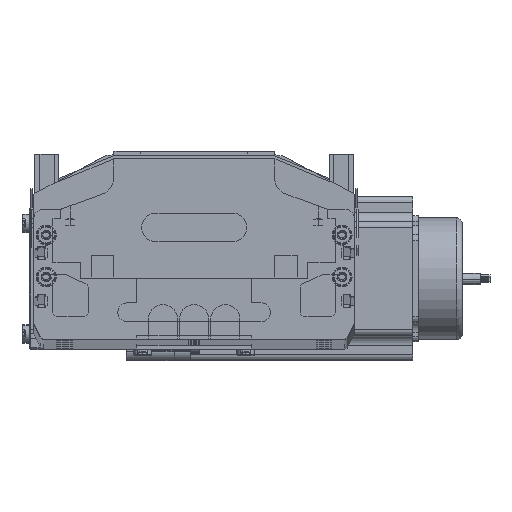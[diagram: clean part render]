
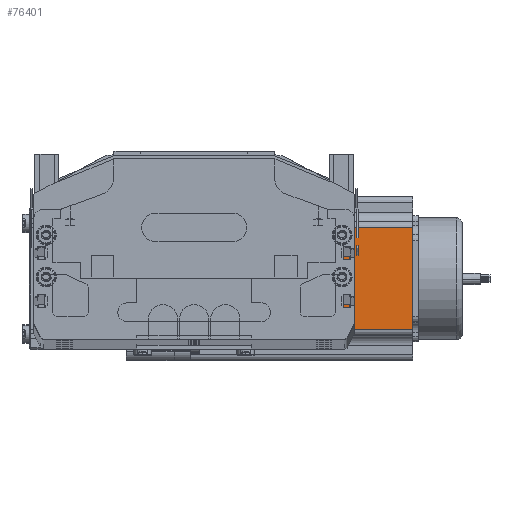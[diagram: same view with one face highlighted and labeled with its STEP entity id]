
A CAD part, top view. The second image highlights one B-rep face of the part: STEP entity #76401.
In plain terms, the highlighted planar face has unit normal (0, 0, 1) as drawn and (0, -1, 0) by its records, which use the part's own axes.
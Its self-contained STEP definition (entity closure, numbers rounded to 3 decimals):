
#8390 = CARTESIAN_POINT ( 'NONE',  ( 69.74, 0., 116.5 ) ) ;
#8408 = CARTESIAN_POINT ( 'NONE',  ( 16.16, 0., 116.5 ) ) ;
#8488 = DIRECTION ( 'NONE',  ( 0., 0., 1. ) ) ;
#8542 = AXIS2_PLACEMENT_3D ( 'NONE', #8563, #8547, #8488 ) ;
#8547 = DIRECTION ( 'NONE',  ( 0., 1., 0. ) ) ;
#8549 = PLANE ( 'NONE',  #8542 ) ;
#8550 = FACE_OUTER_BOUND ( 'NONE', #76695, .T. ) ;
#8563 = CARTESIAN_POINT ( 'NONE',  ( 0., 0., 116.5 ) ) ;
#8582 = CARTESIAN_POINT ( 'NONE',  ( 69.74, 0., 0. ) ) ;
#8590 = LINE ( 'NONE', #8644, #8643 ) ;
#8598 = LINE ( 'NONE', #8652, #8651 ) ;
#8642 = DIRECTION ( 'NONE',  ( 1., 0., 0. ) ) ;
#8643 = VECTOR ( 'NONE', #8642, 1000. ) ;
#8644 = CARTESIAN_POINT ( 'NONE',  ( 0., 0., 116.5 ) ) ;
#8650 = DIRECTION ( 'NONE',  ( 0., 0., -1. ) ) ;
#8651 = VECTOR ( 'NONE', #8650, 1000. ) ;
#8652 = CARTESIAN_POINT ( 'NONE',  ( 16.16, 0., 116.5 ) ) ;
#8755 = CARTESIAN_POINT ( 'NONE',  ( 16.16, 0., 0. ) ) ;
#8868 = DIRECTION ( 'NONE',  ( 1., 0., 0. ) ) ;
#8870 = VECTOR ( 'NONE', #8868, 1000. ) ;
#8878 = CARTESIAN_POINT ( 'NONE',  ( 0., 0., 0. ) ) ;
#8879 = LINE ( 'NONE', #8878, #8870 ) ;
#8880 = DIRECTION ( 'NONE',  ( 0., 0., 1. ) ) ;
#8881 = VECTOR ( 'NONE', #8880, 1000. ) ;
#8882 = CARTESIAN_POINT ( 'NONE',  ( 69.74, 0., 116.5 ) ) ;
#8884 = LINE ( 'NONE', #8882, #8881 ) ;
#76308 = VERTEX_POINT ( 'NONE', #8408 ) ;
#76309 = VERTEX_POINT ( 'NONE', #8390 ) ;
#76401 = ADVANCED_FACE ( 'NONE', ( #8550 ), #8549, .F. ) ;
#76404 = ORIENTED_EDGE ( 'NONE', *, *, #76683, .T. ) ;
#76459 = EDGE_CURVE ( 'NONE', #76308, #76636, #8598, .T. ) ;
#76464 = EDGE_CURVE ( 'NONE', #76308, #76309, #8590, .T. ) ;
#76619 = ORIENTED_EDGE ( 'NONE', *, *, #76464, .F. ) ;
#76625 = ORIENTED_EDGE ( 'NONE', *, *, #76459, .T. ) ;
#76636 = VERTEX_POINT ( 'NONE', #8755 ) ;
#76671 = VERTEX_POINT ( 'NONE', #8582 ) ;
#76682 = ORIENTED_EDGE ( 'NONE', *, *, #76707, .T. ) ;
#76683 = EDGE_CURVE ( 'NONE', #76671, #76309, #8884, .T. ) ;
#76695 = EDGE_LOOP ( 'NONE', ( #76682, #76404, #76619, #76625 ) ) ;
#76707 = EDGE_CURVE ( 'NONE', #76636, #76671, #8879, .T. ) ;
